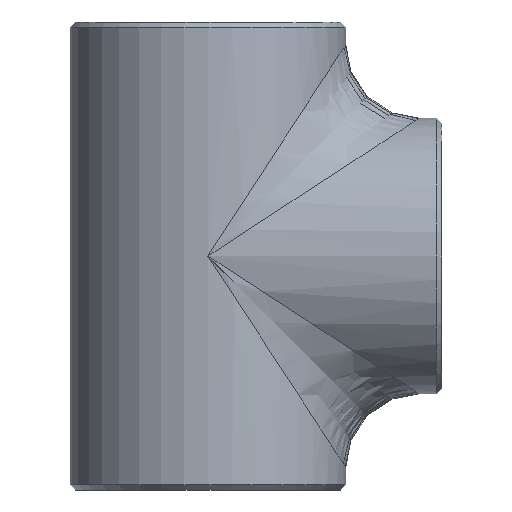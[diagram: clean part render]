
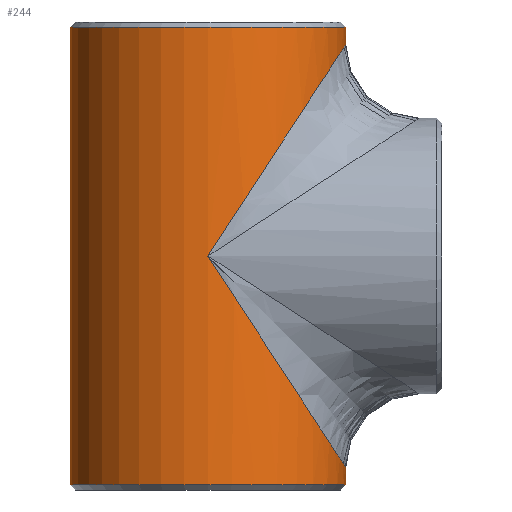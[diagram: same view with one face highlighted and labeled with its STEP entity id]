
A CAD part, front view. The second image highlights one B-rep face of the part: STEP entity #244.
In plain terms, the highlighted cylindrical face has radius 84.15 mm (diameter 168.3 mm), a partial arc.
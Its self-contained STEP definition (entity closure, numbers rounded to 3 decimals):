
#24 = ORIENTED_EDGE ( 'NONE', *, *, #1265, .T. ) ;
#29 = DIRECTION ( 'NONE',  ( 1., 0., 0. ) ) ;
#58 = CYLINDRICAL_SURFACE ( 'NONE', #817, 84.15 ) ;
#61 = CARTESIAN_POINT ( 'NONE',  ( 84.15, -49.294, -129.15 ) ) ;
#62 = DIRECTION ( 'NONE',  ( 0., 0., -1. ) ) ;
#84 = LINE ( 'NONE', #1091, #678 ) ;
#126 = CARTESIAN_POINT ( 'NONE',  ( 84.15, -49.294, 129.15 ) ) ;
#143 = DIRECTION ( 'NONE',  ( -1., 0., 0. ) ) ;
#152 = DIRECTION ( 'NONE',  ( 0., 0., 1. ) ) ;
#161 = DIRECTION ( 'NONE',  ( 0., 0., -1. ) ) ;
#244 = ADVANCED_FACE ( 'NONE', ( #730 ), #58, .T. ) ;
#245 = EDGE_CURVE ( 'NONE', #291, #1127, #915, .T. ) ;
#268 = CARTESIAN_POINT ( 'NONE',  ( -84.15, 0., 139.55 ) ) ;
#274 = CARTESIAN_POINT ( 'NONE',  ( 84.15, 0., 142.9 ) ) ;
#279 = VERTEX_POINT ( 'NONE', #380 ) ;
#291 = VERTEX_POINT ( 'NONE', #404 ) ;
#315 = VERTEX_POINT ( 'NONE', #268 ) ;
#380 = CARTESIAN_POINT ( 'NONE',  ( 84.15, 0., -129.15 ) ) ;
#404 = CARTESIAN_POINT ( 'NONE',  ( -84.15, 0., -139.55 ) ) ;
#457 = ORIENTED_EDGE ( 'NONE', *, *, #245, .T. ) ;
#508 = CARTESIAN_POINT ( 'NONE',  ( 0., 0., -139.55 ) ) ;
#528 = CARTESIAN_POINT ( 'NONE',  ( 84.15, 0., 129.15 ) ) ;
#535 = AXIS2_PLACEMENT_3D ( 'NONE', #508, #152, #29 ) ;
#565 = CARTESIAN_POINT ( 'NONE',  ( 84.15, 0., 142.9 ) ) ;
#577 = EDGE_CURVE ( 'NONE', #315, #291, #84, .T. ) ;
#600 = EDGE_CURVE ( 'NONE', #279, #1080, #810, .T. ) ;
#605 = EDGE_LOOP ( 'NONE', ( #1074, #890, #934, #457, #835, #978, #24 ) ) ;
#609 = VECTOR ( 'NONE', #1390, 1000. ) ;
#678 = VECTOR ( 'NONE', #1123, 1000. ) ;
#685 = EDGE_CURVE ( 'NONE', #279, #1127, #1365, .T. ) ;
#730 = FACE_OUTER_BOUND ( 'NONE', #605, .T. ) ;
#768 = CARTESIAN_POINT ( 'NONE',  ( 49.294, -84.15, -75.654 ) ) ;
#771 = CARTESIAN_POINT ( 'NONE',  ( 84.15, 0., -139.55 ) ) ;
#785 = VERTEX_POINT ( 'NONE', #1005 ) ;
#810 =( BOUNDED_CURVE ( )  B_SPLINE_CURVE ( 3, ( #1342, #61, #768, #1232 ),
 .UNSPECIFIED., .F., .T. ) 
 B_SPLINE_CURVE_WITH_KNOTS ( ( 4, 4 ),
 ( 3.142, 4.712 ),
 .UNSPECIFIED. ) 
 CURVE ( )  GEOMETRIC_REPRESENTATION_ITEM ( )  RATIONAL_B_SPLINE_CURVE ( ( 1., 0.805, 0.805, 1. ) ) 
 REPRESENTATION_ITEM ( '' )  );
#812 = CARTESIAN_POINT ( 'NONE',  ( 0., -84.15, 0. ) ) ;
#817 = AXIS2_PLACEMENT_3D ( 'NONE', #1423, #161, #143 ) ;
#835 = ORIENTED_EDGE ( 'NONE', *, *, #685, .F. ) ;
#890 = ORIENTED_EDGE ( 'NONE', *, *, #1358, .T. ) ;
#915 = CIRCLE ( 'NONE', #535, 84.15 ) ;
#924 = CARTESIAN_POINT ( 'NONE',  ( 0., 0., 139.55 ) ) ;
#934 = ORIENTED_EDGE ( 'NONE', *, *, #577, .T. ) ;
#942 = VECTOR ( 'NONE', #62, 1000. ) ;
#970 =( BOUNDED_CURVE ( )  B_SPLINE_CURVE ( 3, ( #812, #1264, #126, #1393 ),
 .UNSPECIFIED., .F., .F. ) 
 B_SPLINE_CURVE_WITH_KNOTS ( ( 4, 4 ),
 ( 1.571, 3.142 ),
 .UNSPECIFIED. ) 
 CURVE ( )  GEOMETRIC_REPRESENTATION_ITEM ( )  RATIONAL_B_SPLINE_CURVE ( ( 1., 0.805, 0.805, 1. ) ) 
 REPRESENTATION_ITEM ( '' )  );
#978 = ORIENTED_EDGE ( 'NONE', *, *, #600, .T. ) ;
#1005 = CARTESIAN_POINT ( 'NONE',  ( 84.15, 0., 139.55 ) ) ;
#1041 = DIRECTION ( 'NONE',  ( 0., 0., -1. ) ) ;
#1074 = ORIENTED_EDGE ( 'NONE', *, *, #1420, .F. ) ;
#1076 = LINE ( 'NONE', #274, #942 ) ;
#1080 = VERTEX_POINT ( 'NONE', #1472 ) ;
#1091 = CARTESIAN_POINT ( 'NONE',  ( -84.15, 0., 142.9 ) ) ;
#1123 = DIRECTION ( 'NONE',  ( 0., 0., -1. ) ) ;
#1127 = VERTEX_POINT ( 'NONE', #771 ) ;
#1232 = CARTESIAN_POINT ( 'NONE',  ( 0., -84.15, 0. ) ) ;
#1264 = CARTESIAN_POINT ( 'NONE',  ( 49.294, -84.15, 75.654 ) ) ;
#1265 = EDGE_CURVE ( 'NONE', #1080, #1451, #970, .T. ) ;
#1342 = CARTESIAN_POINT ( 'NONE',  ( 84.15, 0., -129.15 ) ) ;
#1358 = EDGE_CURVE ( 'NONE', #785, #315, #1372, .T. ) ;
#1365 = LINE ( 'NONE', #565, #609 ) ;
#1372 = CIRCLE ( 'NONE', #1467, 84.15 ) ;
#1380 = DIRECTION ( 'NONE',  ( 1., 0., 0. ) ) ;
#1390 = DIRECTION ( 'NONE',  ( 0., 0., -1. ) ) ;
#1393 = CARTESIAN_POINT ( 'NONE',  ( 84.15, 0., 129.15 ) ) ;
#1420 = EDGE_CURVE ( 'NONE', #785, #1451, #1076, .T. ) ;
#1423 = CARTESIAN_POINT ( 'NONE',  ( 0., 0., 142.9 ) ) ;
#1451 = VERTEX_POINT ( 'NONE', #528 ) ;
#1467 = AXIS2_PLACEMENT_3D ( 'NONE', #924, #1041, #1380 ) ;
#1472 = CARTESIAN_POINT ( 'NONE',  ( 0., -84.15, 0. ) ) ;
